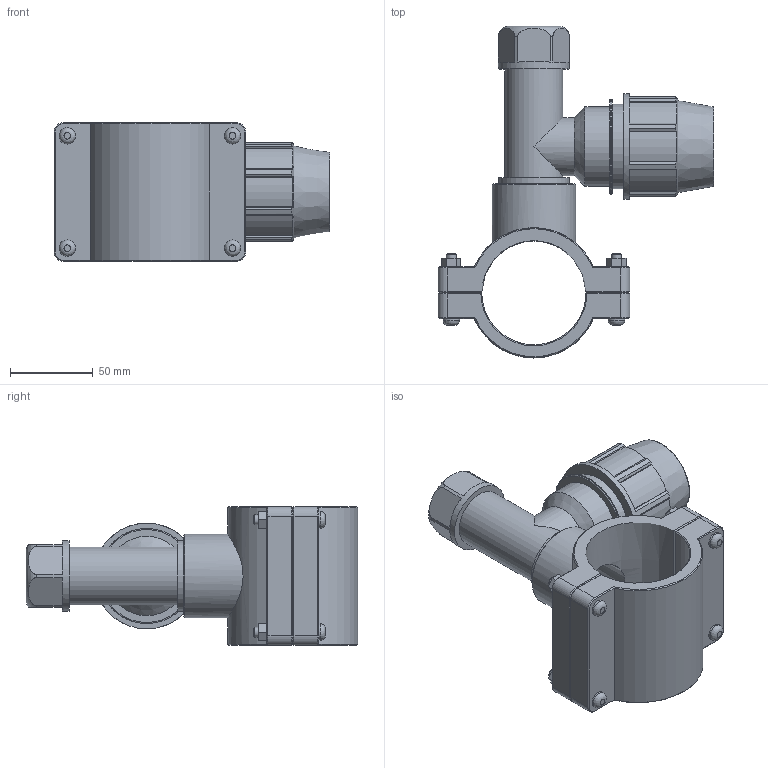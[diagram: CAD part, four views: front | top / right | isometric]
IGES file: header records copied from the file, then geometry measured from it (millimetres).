
Global section: file name: 165400063032_165406063032.ipt; native system: Autodesk Inventor 2015; preprocessor: unknown; author: KIM; date: 20170618.093846; units: millimetre
Bounding box: 167 x 200.88 x 84 mm (x, y, z)
Volume: 451772.7 mm3; surface area: 119043.4 mm2
Topology: 1 solids, 1 shells, 232 faces, 582 edges, 378 vertices
Faces by surface type: plane 145, cylinder 42, cone 28, revolution 17
Full cylindrical faces by diameter (mm): 6 x4, 10 x8, 35.057 x2, 38.952 x1, 42.847 x2, 48 x1, 50.638 x1, 51.2 x1, 57.6 x1, 64 x1
